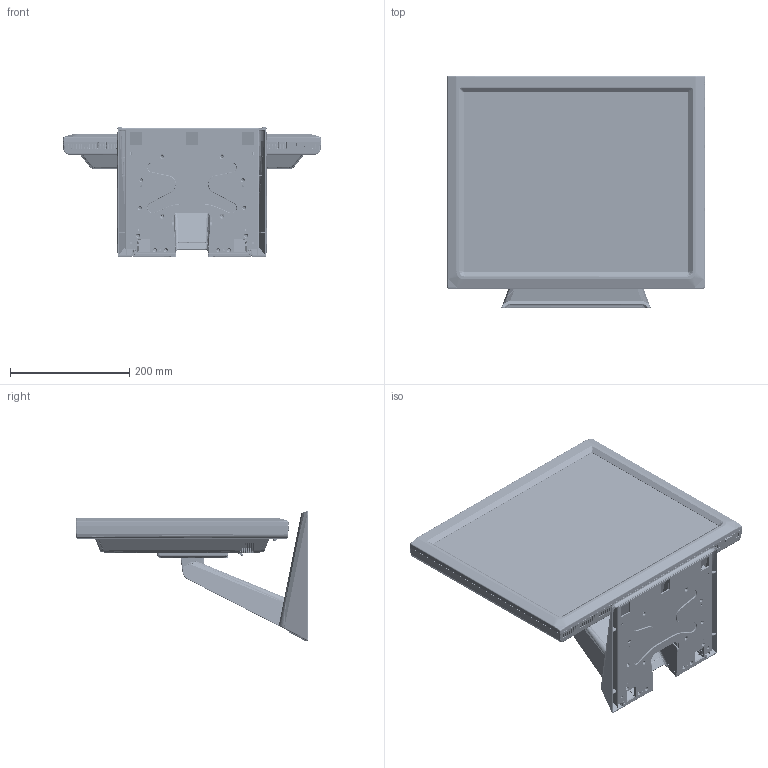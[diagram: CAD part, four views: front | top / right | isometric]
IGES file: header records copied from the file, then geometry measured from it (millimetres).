
Start section: SolidWorks IGES file using analytic representation for surfaces
Global section: file name: C:\Users\jcordisco\Documents\Projects\Monitor\Final\PT1945R\997-5971-01_A_PT1945R.IGS; native system: SolidWorks 2019; preprocessor: SolidWorks 2019; author: jcordisco; date: 210726.093158; units: millimetre
Bounding box: 431.8 x 389.85 x 219.02 mm (x, y, z)
Surface area: 1549634.8 mm2 (no closed solid volume)
Topology: 0 solids, 0 shells, 18116 faces, 143276 edges, 143166 vertices
Faces by surface type: bspline 11888, revolution 6228
